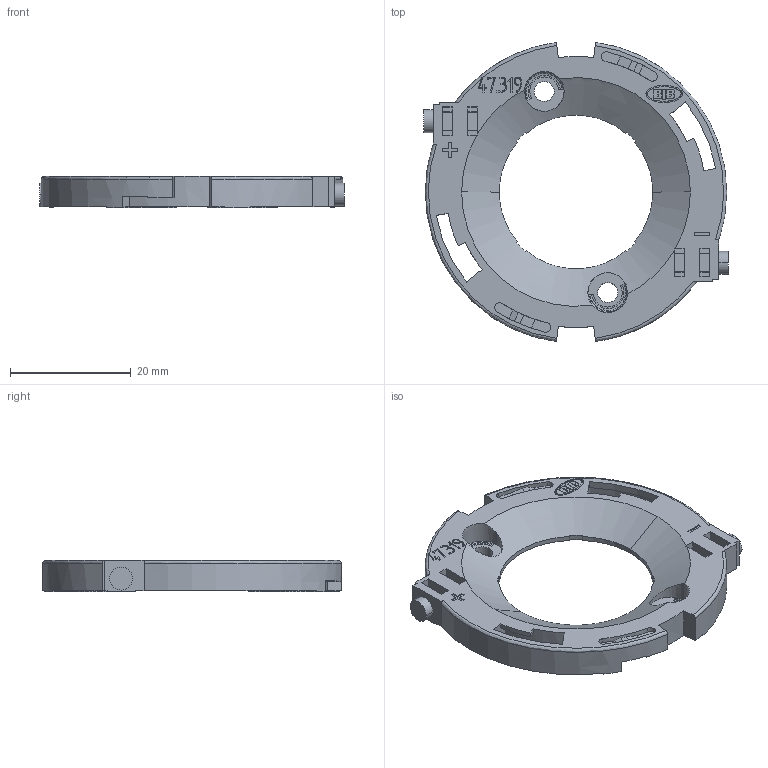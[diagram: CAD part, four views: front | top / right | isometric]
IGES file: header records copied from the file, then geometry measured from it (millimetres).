
Global section: file name: C:\CoreTechnologie\3D-in\01TYA3CY07.igs; native system: CT CoreTechnologie 3D Evolution; preprocessor: 2006; date: 1180511.134004; units: millimetre
Bounding box: 50.6 x 49.57 x 5.25 mm (x, y, z)
Volume: 3432 mm3; surface area: 6104.6 mm2
Topology: 3 solids, 3 shells, 587 faces, 1655 edges, 1099 vertices
Faces by surface type: plane 403, revolution 170, bspline 14
